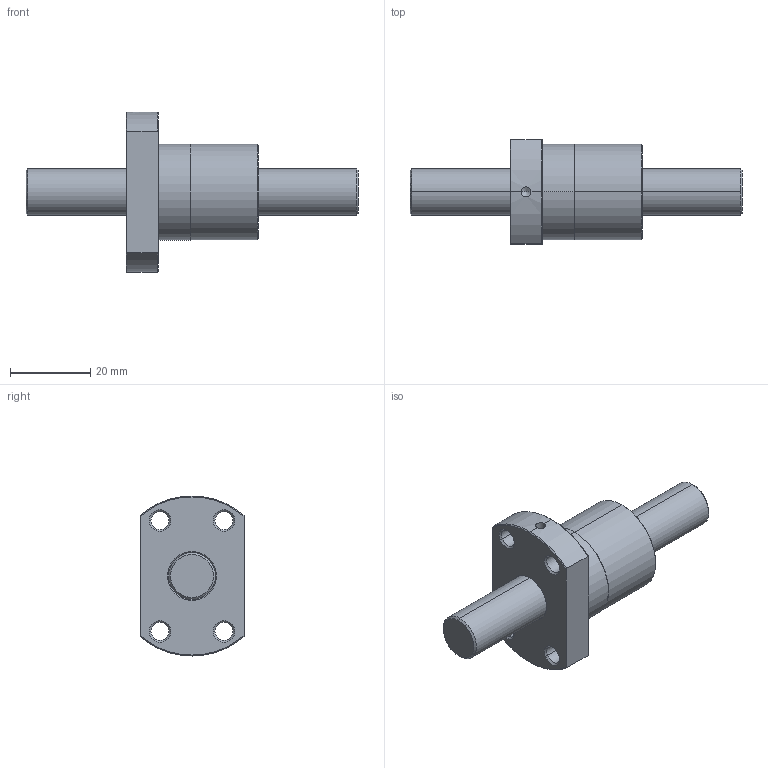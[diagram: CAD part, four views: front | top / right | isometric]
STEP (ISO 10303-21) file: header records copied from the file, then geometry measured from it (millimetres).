
FILE_DESCRIPTION(('no description'),'unknown implementation level');
FILE_NAME('R12_05K4_FSCDIN_83_83_0_052_1.stp',' ',('HIWIN GmbH'),('CADClick - KiM GmbH - www.kimweb.de'),'unknown preprocess','ACIS','unknown authorization');
FILE_SCHEMA(('automotive_design'));
Length unit declared in the file: millimetre
Products named in the file (2): 1; 2
Bounding box: 83 x 26 x 40 mm (x, y, z)
Volume: 23671.4 mm3; surface area: 9304.3 mm2
Topology: 2 solids, 2 shells, 66 faces, 149 edges, 87 vertices
Faces by surface type: cone 36, cylinder 22, plane 8
Entity records: 3611 total; most frequent: CARTESIAN_POINT 353, DIRECTION 349, STYLED_ITEM 302, PRESENTATION_STYLE_ASSIGNMENT 302, COLOUR_RGB 302, ORIENTED_EDGE 294, EDGE_CURVE 147, CURVE_STYLE 147
